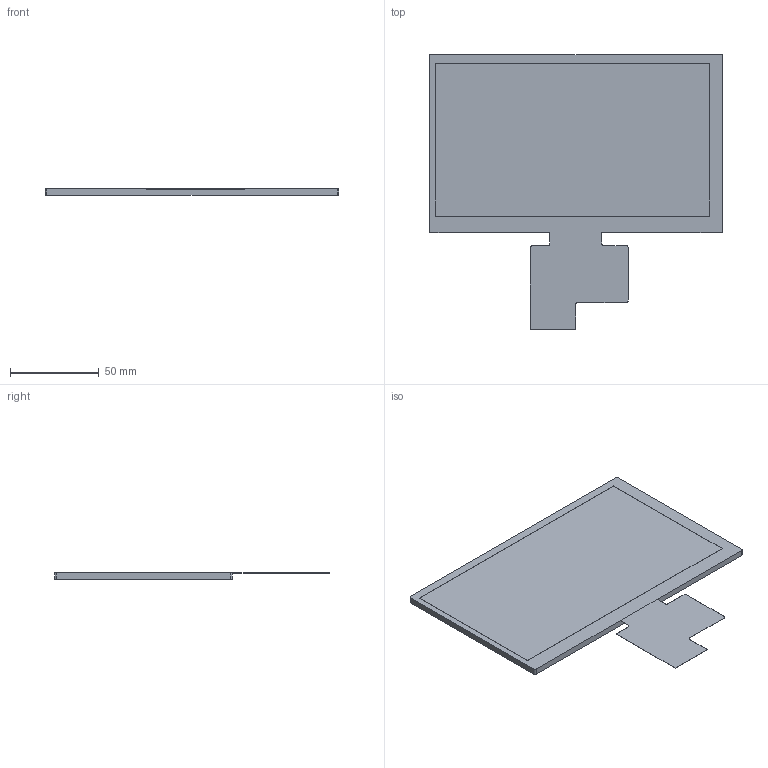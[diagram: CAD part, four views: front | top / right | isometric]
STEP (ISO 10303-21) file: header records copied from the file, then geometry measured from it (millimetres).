
FILE_DESCRIPTION((''),'2;1');
FILE_NAME('LI10600F070IO3001Z01','2022-04-24T',('Administrator'),(''),'PRO/ENGINEER BY PARAMETRIC TECHNOLOGY CORPORATION, 2011310','PRO/ENGINEER BY PARAMETRIC TECHNOLOGY CORPORATION, 2011310','');
FILE_SCHEMA(('CONFIG_CONTROL_DESIGN','SHAPE_APPEARANCE_LAYERS_GROUPS'));
Length unit declared in the file: millimetre
Products named in the file (1): LI10600F070IO3001Z01
Bounding box: 165 x 154.5 x 3.5 mm (x, y, z)
Volume: 56658.2 mm3; surface area: 39635.1 mm2
Topology: 1 solids, 1 shells, 31 faces, 84 edges, 56 vertices
Faces by surface type: plane 21, cylinder 10
Entity records: 1143 total; most frequent: CARTESIAN_POINT 171, ORIENTED_EDGE 168, DIRECTION 166, COLOUR_RGB 112, EDGE_CURVE 84, VECTOR 64, LINE 64, VERTEX_POINT 56
